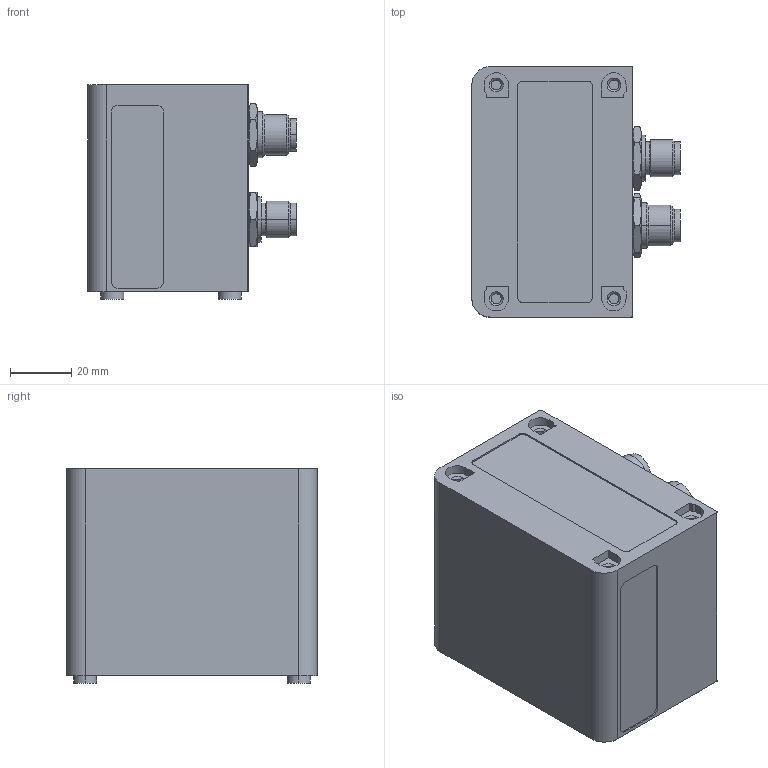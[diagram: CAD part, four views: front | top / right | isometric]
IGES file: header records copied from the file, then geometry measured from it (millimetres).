
Global section: file name: No Iges File Name specified; native system: Autodesk Inventor 2010; preprocessor: AutoDesk Inventor Iges Exporter R2010; author: brembcl1; date: 20091124.150153; units: millimetre
Bounding box: 68.2 x 82 x 70.2 mm (x, y, z)
Volume: 293442.5 mm3; surface area: 31361.2 mm2
Topology: 1 solids, 1 shells, 424 faces, 1048 edges, 684 vertices
Faces by surface type: plane 199, bspline 96, cylinder 60, revolution 45, cone 24
